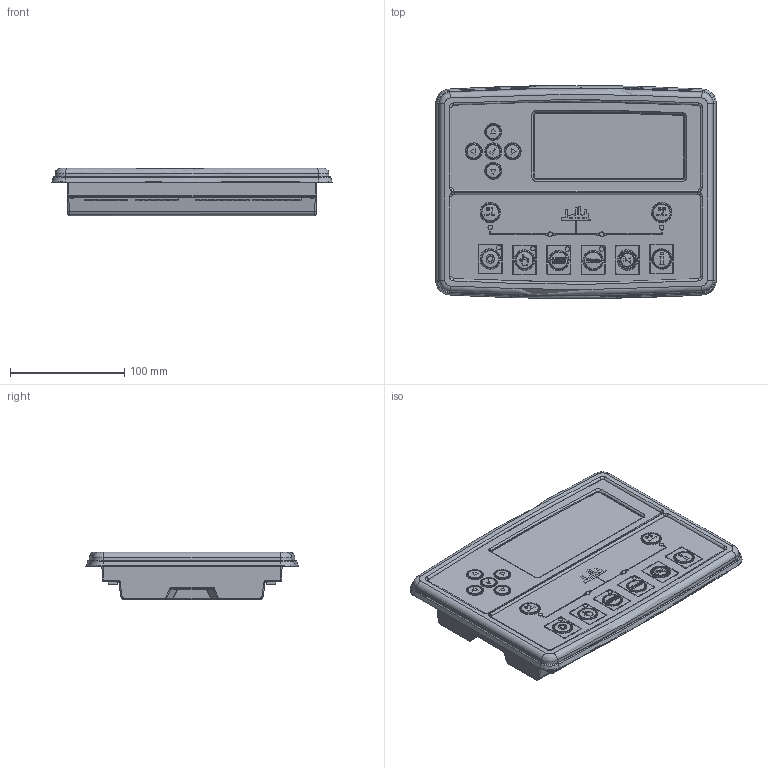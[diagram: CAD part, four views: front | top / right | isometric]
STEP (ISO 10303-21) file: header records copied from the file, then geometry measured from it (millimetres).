
FILE_DESCRIPTION (( 'STEP AP214' ), '1' );
FILE_NAME ('DSE335.STEP', '2017-01-13T13:08:10', ( '' ), ( '' ), 'SwSTEP 2.0', 'SolidWorks 2017', '' );
FILE_SCHEMA (( 'AUTOMOTIVE_DESIGN' ));
Length unit declared in the file: millimetre
Products named in the file (2): DSE335
Bounding box: 245.2 x 186.3 x 41.5 mm (x, y, z)
Volume: 1288823.6 mm3; surface area: 131392.4 mm2
Topology: 1 solids, 1 shells, 2866 faces, 7369 edges, 4628 vertices
Faces by surface type: plane 1833, bspline 415, cylinder 259, cone 188, torus 111, sphere 60
Entity records: 132100 total; most frequent: CARTESIAN_POINT 41736, ORIENTED_EDGE 14670, DIRECTION 10820, EDGE_CURVE 7335, VECTOR 4778, LINE 4778, VERTEX_POINT 4626, EDGE_LOOP 3045
